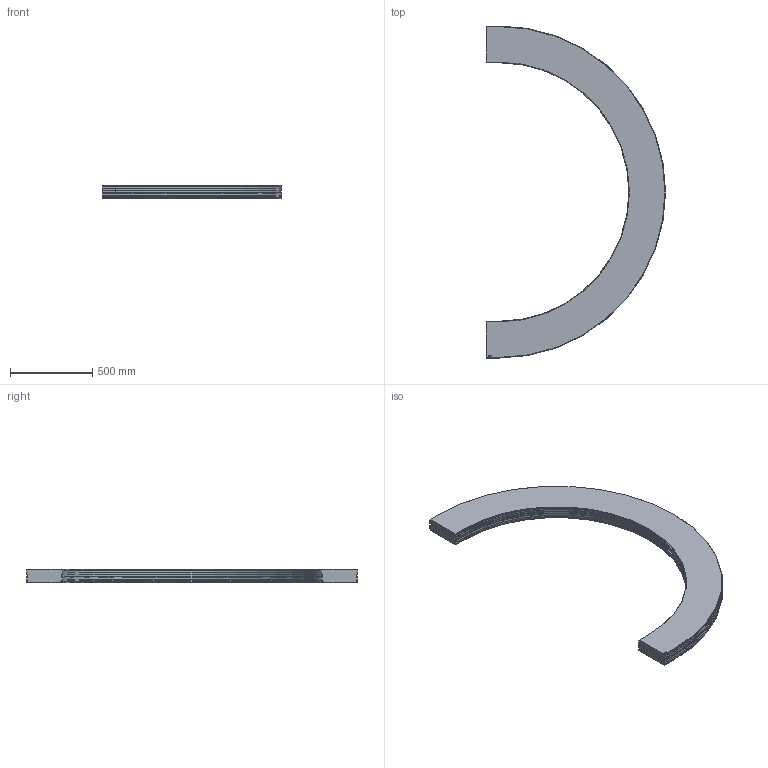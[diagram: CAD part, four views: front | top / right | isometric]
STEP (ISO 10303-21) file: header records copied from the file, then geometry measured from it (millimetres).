
FILE_DESCRIPTION(/* description */ ('GLIDKURVA SERIE 220'),/* implementation_level */ '2;1');
FILE_NAME(/* name */ '\\carryline.intra\privat\users\mathias\Desktop\Tillfälliga filer\220-5375+220-2000-01.stp',/* time_stamp */ '2018-11-29T12:57:06+01:00',/* author */ ('MD'),/* organization */ ('CARRYLINE'),/* preprocessor_version */ 'ST-DEVELOPER v17',/* originating_system */ 'Autodesk Inventor 2018',/* authorisation */ '');
FILE_SCHEMA (('AUTOMOTIVE_DESIGN { 1 0 10303 214 3 1 1 }'));
Length unit declared in the file: millimetre
Products named in the file (1): 220-5375+220-2000-01
Bounding box: 1092 x 2024 x 81.5 mm (x, y, z)
Volume: 53169616.6 mm3; surface area: 2191435.9 mm2
Topology: 1 solids, 1 shells, 165 faces, 442 edges, 284 vertices
Faces by surface type: plane 115, cylinder 24, bspline 14, cone 12
Entity records: 5289 total; most frequent: CARTESIAN_POINT 1142, ORIENTED_EDGE 884, DIRECTION 774, EDGE_CURVE 442, LINE 358, VECTOR 358, VERTEX_POINT 284, AXIS2_PLACEMENT_3D 208
